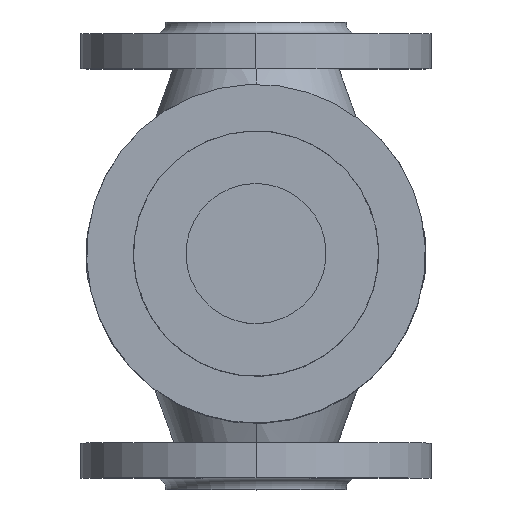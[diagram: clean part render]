
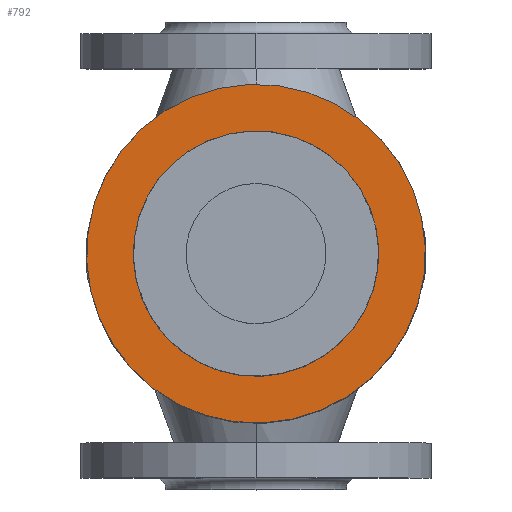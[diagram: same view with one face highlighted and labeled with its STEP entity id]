
A CAD part, top view. The second image highlights one B-rep face of the part: STEP entity #792.
In plain terms, the highlighted planar face has unit normal (0, 0, 1).
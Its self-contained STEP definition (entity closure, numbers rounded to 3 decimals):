
#314 = VERTEX_POINT ( 'NONE', #9556 ) ;
#360 = DIRECTION ( 'NONE',  ( 0., 0., 1. ) ) ;
#614 = VERTEX_POINT ( 'NONE', #904 ) ;
#792 = ADVANCED_FACE ( 'NONE', ( #1156, #10206 ), #3133, .F. ) ;
#904 = CARTESIAN_POINT ( 'NONE',  ( 139.421, -147.281, 44. ) ) ;
#907 = DIRECTION ( 'NONE',  ( 0., 0., 1. ) ) ;
#1057 = DIRECTION ( 'NONE',  ( 0., 0., 1. ) ) ;
#1156 = FACE_OUTER_BOUND ( 'NONE', #1458, .T. ) ;
#1204 = VERTEX_POINT ( 'NONE', #7643 ) ;
#1458 = EDGE_LOOP ( 'NONE', ( #7962, #10042 ) ) ;
#1666 = DIRECTION ( 'NONE',  ( -0.924, -0.383, 0. ) ) ;
#1684 = ORIENTED_EDGE ( 'NONE', *, *, #7903, .F. ) ;
#2533 = CIRCLE ( 'NONE', #9860, 72.434 ) ;
#2667 = DIRECTION ( 'NONE',  ( 0., 0., 1. ) ) ;
#3133 = PLANE ( 'NONE',  #11099 ) ;
#3468 = EDGE_CURVE ( 'NONE', #9407, #314, #6299, .T. ) ;
#3660 = DIRECTION ( 'NONE',  ( -0.924, -0.383, 0. ) ) ;
#3775 = AXIS2_PLACEMENT_3D ( 'NONE', #5059, #1057, #4994 ) ;
#4280 = CARTESIAN_POINT ( 'NONE',  ( 72.5, -175., 44. ) ) ;
#4984 = AXIS2_PLACEMENT_3D ( 'NONE', #4280, #360, #9321 ) ;
#4994 = DIRECTION ( 'NONE',  ( -0.924, -0.383, 0. ) ) ;
#5059 = CARTESIAN_POINT ( 'NONE',  ( 72.5, -175., 44. ) ) ;
#5577 = CIRCLE ( 'NONE', #12881, 52.5 ) ;
#6299 = CIRCLE ( 'NONE', #3775, 52.5 ) ;
#6309 = EDGE_CURVE ( 'NONE', #614, #1204, #2533, .T. ) ;
#6662 = EDGE_LOOP ( 'NONE', ( #1684, #10813 ) ) ;
#7643 = CARTESIAN_POINT ( 'NONE',  ( 5.579, -202.719, 44. ) ) ;
#7655 = CARTESIAN_POINT ( 'NONE',  ( 72.5, -175., 44. ) ) ;
#7707 = CIRCLE ( 'NONE', #4984, 72.434 ) ;
#7903 = EDGE_CURVE ( 'NONE', #314, #9407, #5577, .T. ) ;
#7962 = ORIENTED_EDGE ( 'NONE', *, *, #10767, .T. ) ;
#8052 = DIRECTION ( 'NONE',  ( 0., -1., 0. ) ) ;
#9321 = DIRECTION ( 'NONE',  ( -0.924, -0.383, 0. ) ) ;
#9407 = VERTEX_POINT ( 'NONE', #9502 ) ;
#9502 = CARTESIAN_POINT ( 'NONE',  ( 23.996, -195.091, 44. ) ) ;
#9556 = CARTESIAN_POINT ( 'NONE',  ( 121.004, -154.909, 44. ) ) ;
#9860 = AXIS2_PLACEMENT_3D ( 'NONE', #7655, #2667, #1666 ) ;
#10042 = ORIENTED_EDGE ( 'NONE', *, *, #6309, .T. ) ;
#10073 = DIRECTION ( 'NONE',  ( 0., 0., -1. ) ) ;
#10206 = FACE_BOUND ( 'NONE', #6662, .T. ) ;
#10767 = EDGE_CURVE ( 'NONE', #1204, #614, #7707, .T. ) ;
#10813 = ORIENTED_EDGE ( 'NONE', *, *, #3468, .F. ) ;
#11099 = AXIS2_PLACEMENT_3D ( 'NONE', #11307, #10073, #8052 ) ;
#11307 = CARTESIAN_POINT ( 'NONE',  ( 5.579, -202.719, 44. ) ) ;
#11827 = CARTESIAN_POINT ( 'NONE',  ( 72.5, -175., 44. ) ) ;
#12881 = AXIS2_PLACEMENT_3D ( 'NONE', #11827, #907, #3660 ) ;
